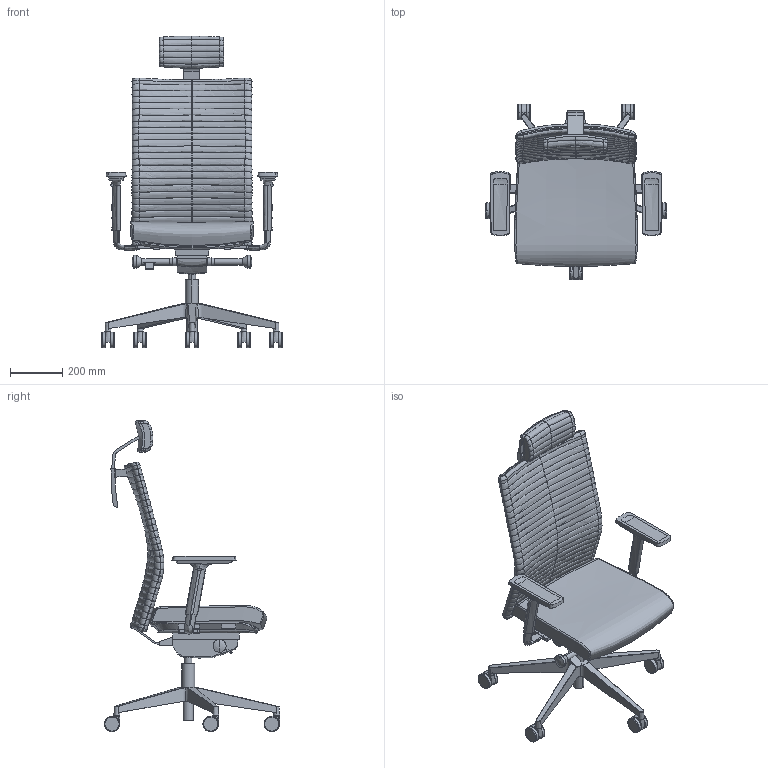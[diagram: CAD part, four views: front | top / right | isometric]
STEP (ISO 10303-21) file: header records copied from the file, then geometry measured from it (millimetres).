
FILE_DESCRIPTION(/* description */ (''),/* implementation_level */ '2;1');
FILE_NAME(/* name */ 'ELEMEN~1',/* time_stamp */ '2017-07-18T22:58:09+02:00',/* author */ (''),/* organization */ (''),/* preprocessor_version */ 'ST-DEVELOPER v15',/* originating_system */ '',/* authorisation */ '');
FILE_SCHEMA (('CONFIG_CONTROL_DESIGN'));
Length unit declared in the file: millimetre
Products named in the file (1): Document
Bounding box: 694.82 x 673.73 x 1196.08 mm (x, y, z)
Volume: 4762471.8 mm3; surface area: 2404661.6 mm2
Topology: 19 solids, 49 shells, 803 faces, 1886 edges, 1119 vertices
Faces by surface type: bspline 650, plane 153
Entity records: 61593 total; most frequent: CARTESIAN_POINT 50288, ORIENTED_EDGE 3441, EDGE_CURVE 1862, B_SPLINE_CURVE_WITH_KNOTS 1364, VERTEX_POINT 1113, EDGE_LOOP 807, ADVANCED_FACE 803, FACE_OUTER_BOUND 803
